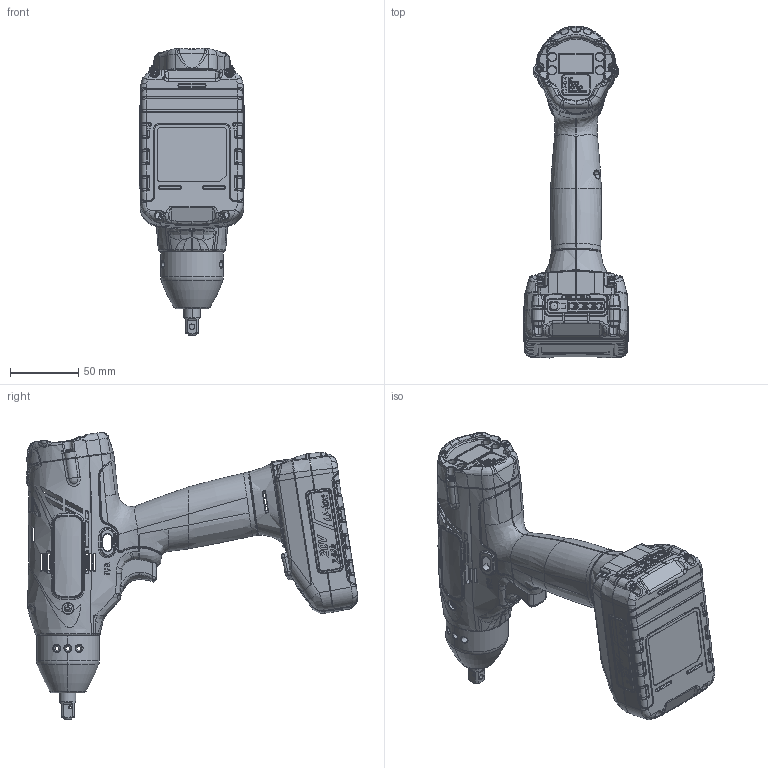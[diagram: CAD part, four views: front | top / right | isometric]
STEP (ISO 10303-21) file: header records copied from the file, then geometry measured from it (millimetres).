
FILE_DESCRIPTION (( 'STEP AP203' ), '1' );
FILE_NAME ('NPA-08S3.12S3.16S3STEP.STEP', '2024-08-19T09:00:44', ( '' ), ( '' ), 'SwSTEP 2.0', 'SolidWorks 2021', '' );
FILE_SCHEMA (( 'CONFIG_CONTROL_DESIGN' ));
Products named in the file (1): NPA-08S3.12S3.16S3STEP
Bounding box: 77 x 242.61 x 209.99 mm (x, y, z)
Surface area: 107273 mm2 (no closed solid volume)
Topology: 0 solids, 112 shells, 2790 faces, 11401 edges, 8344 vertices
Faces by surface type: bspline 1468, plane 476, cylinder 453, torus 173, cone 156, sphere 64
Entity records: 252714 total; most frequent: CARTESIAN_POINT 176462, ORIENTED_EDGE 17016, EDGE_CURVE 11237, DIRECTION 11083, VERTEX_POINT 8275, B_SPLINE_CURVE_WITH_KNOTS 5193, AXIS2_PLACEMENT_3D 4042, EDGE_LOOP 3066
